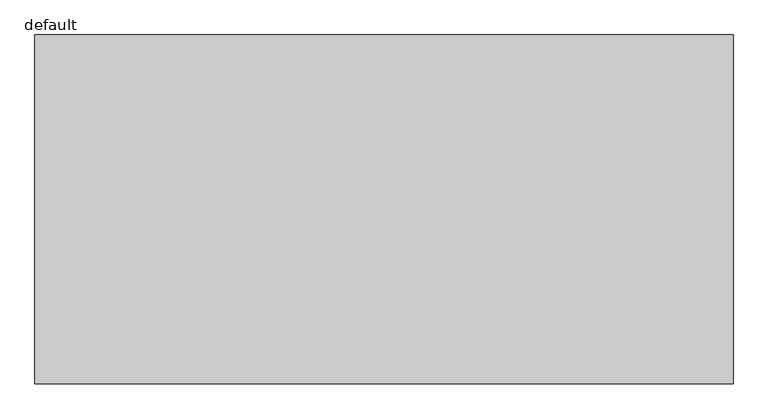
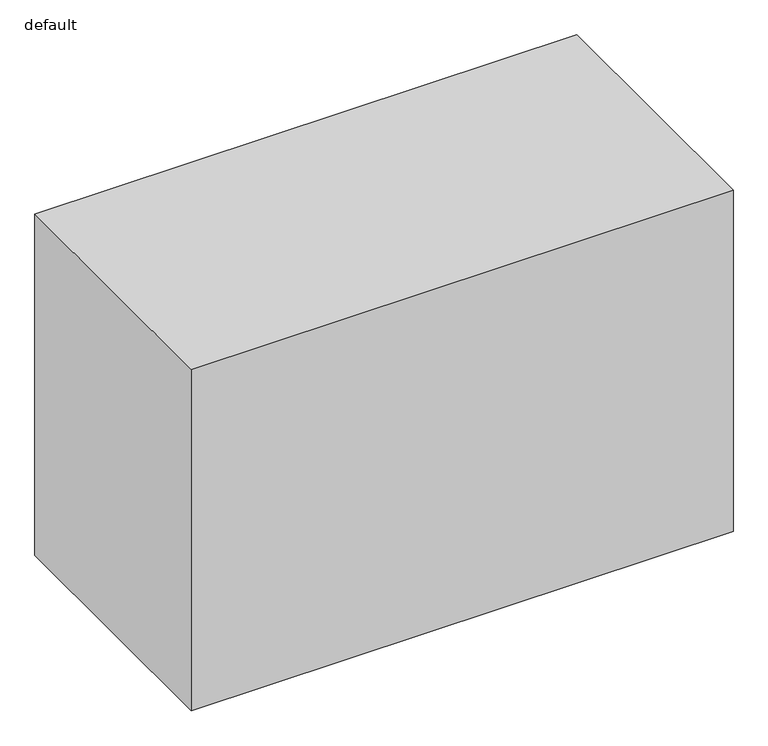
"""IFC4 building model written with IfcOpenShell, lengths in millimetres: furniture geometry, Fu_кухонный напольный модуль_LEG : default."""

import ifcopenshell
import ifcopenshell.guid

model = None  # the IFC model being written
_history = None  # IfcOwnerHistory: only IFC2X3 demands one
_inside = {}  # id of a spatial element -> (the spatial element, [elements in it])
_under = {}  # id of a project, library or spatial element -> (it, [spatial elements below it])
_declared = {}  # id of a project -> (the project, [libraries it declares])
_typed = {}  # id of a type object -> (the type object, [elements of that type])
_made_of = {}  # id of a material, layer set ... -> (it, [elements and type objects made of it])


def new_model(schema):
    """Start an empty IFC model of exactly this schema.

    Asked for "IFC4X3", IfcOpenShell would pick the latest addendum, in which some entities
    have other attributes; the version numbers below select the first issue.
    IFC2X3 requires an IfcOwnerHistory on every rooted entity: one is made here for all.
    """
    global model, _history
    if schema == "IFC4X3":
        model = ifcopenshell.file(schema_version=(4, 3, 0, 0))
    else:
        model = ifcopenshell.file(schema=schema)
    _inside.clear()
    _under.clear()
    _declared.clear()
    _typed.clear()
    _made_of.clear()
    _history = None
    if model.schema == "IFC2X3":
        org = make("IfcOrganization", Name="unknown")
        user = make(
            "IfcPersonAndOrganization",
            ThePerson=make("IfcPerson", FamilyName="unknown"),
            TheOrganization=org,
        )
        app = make(
            "IfcApplication",
            ApplicationDeveloper=org,
            Version="unknown",
            ApplicationFullName="unknown",
            ApplicationIdentifier="unknown",
        )
        _history = make(
            "IfcOwnerHistory",
            OwningUser=user,
            OwningApplication=app,
            ChangeAction="ADDED",
            CreationDate=0,
        )
    return model


def make(cls, **values):
    """One entity of the class cls with the attributes given. An attribute that is None is left unset."""
    return model.create_entity(
        cls, **{name: value for name, value in values.items() if value is not None}
    )


def rooted(cls, **values):
    """An entity with a GlobalId (a new one), such as an element, a storey or a relation."""
    return make(cls, GlobalId=ifcopenshell.guid.new(), OwnerHistory=_history, **values)


def si_unit(unit_type, name, prefix=None):
    """IfcSIUnit, for example si_unit("LENGTHUNIT", "METRE", prefix="MILLI")."""
    return make("IfcSIUnit", UnitType=unit_type, Prefix=prefix, Name=name)


def assignment(units):
    """IfcUnitAssignment: the units of a project."""
    return None if units is None else make("IfcUnitAssignment", Units=units)


def point(xyz):
    """IfcCartesianPoint."""
    return None if xyz is None else make("IfcCartesianPoint", Coordinates=xyz)


def direction(xyz):
    """IfcDirection."""
    return None if xyz is None else make("IfcDirection", DirectionRatios=xyz)


def frame(location, z_axis=None, x_axis=None):
    """IfcAxis2Placement3D, a coordinate frame: its origin and axes. An axis left out is left unset."""
    return make(
        "IfcAxis2Placement3D",
        Location=point(location),
        Axis=direction(z_axis),
        RefDirection=direction(x_axis),
    )


def origin():
    """The frame at (0, 0, 0) with its axes left unset."""
    return frame((0.0, 0.0, 0.0))


def origin_with_axes():
    """The frame at (0, 0, 0) with the z axis (0, 0, 1) and the x axis (1, 0, 0) written out."""
    return frame((0.0, 0.0, 0.0), z_axis=(0.0, 0.0, 1.0), x_axis=(1.0, 0.0, 0.0))


def place(relative_to, where):
    """IfcLocalPlacement: puts the frame where relative to a parent placement (None: the world)."""
    return make(
        "IfcLocalPlacement", PlacementRelTo=relative_to, RelativePlacement=where
    )


def context(
    kind, dimensions, precision=None, world=None, true_north=None, identifier=None
):
    """IfcGeometricRepresentationContext, for example the 3D "Model" context."""
    return make(
        "IfcGeometricRepresentationContext",
        ContextIdentifier=identifier,
        ContextType=kind,
        CoordinateSpaceDimension=dimensions,
        Precision=precision,
        WorldCoordinateSystem=world,
        TrueNorth=true_north,
    )


def project(units=None, contexts=None):
    """IfcProject with its units and contexts."""
    return rooted(
        "IfcProject",
        Name="project",
        RepresentationContexts=contexts,
        UnitsInContext=assignment(units),
    )


def spatial(cls, under=None, at=None, **own):
    """A site, building, storey or space (cls), placed at a placement, below another one or the project."""
    s = rooted(cls, ObjectPlacement=at, **own)
    if under is not None:
        _under.setdefault(under.id(), (under, []))[1].append(s)
    return s


def polyline(points):
    """IfcPolyline through the points."""
    return make("IfcPolyline", Points=[point(p) for p in points])


def outline(outer, holes=None, kind="AREA"):
    """IfcArbitraryClosedProfileDef: a profile drawn as a closed curve; with holes, ...WithVoids."""
    if holes is None:
        return make("IfcArbitraryClosedProfileDef", ProfileType=kind, OuterCurve=outer)
    return make(
        "IfcArbitraryProfileDefWithVoids",
        ProfileType=kind,
        OuterCurve=outer,
        InnerCurves=holes,
    )


def extrude(swept, where, along, depth):
    """IfcExtrudedAreaSolid: the profile swept, set in the frame where, extruded along a direction by depth."""
    return make(
        "IfcExtrudedAreaSolid",
        SweptArea=swept,
        Position=where,
        ExtrudedDirection=direction(along),
        Depth=depth,
    )


def shape(context_of_items, identifier, shape_type, items):
    """IfcShapeRepresentation: the items that make up one representation, for example the "Body"."""
    return make(
        "IfcShapeRepresentation",
        ContextOfItems=context_of_items,
        RepresentationIdentifier=identifier,
        RepresentationType=shape_type,
        Items=items,
    )


def source(mapping_origin, context_of_items, identifier, shape_type, items):
    """IfcRepresentationMap: a shape defined once, which mapped items show again and again."""
    return make(
        "IfcRepresentationMap",
        MappingOrigin=mapping_origin,
        MappedRepresentation=shape(context_of_items, identifier, shape_type, items),
    )


def transform(
    local_origin,
    x_axis=None,
    y_axis=None,
    z_axis=None,
    scale=None,
    scale2=None,
    scale3=None,
    uniform=True,
):
    """IfcCartesianTransformationOperator3D, or its non-uniform kind. x_axis, y_axis, z_axis: its Axis1, 2, 3."""
    if uniform:
        return make(
            "IfcCartesianTransformationOperator3D",
            Axis1=direction(x_axis),
            Axis2=direction(y_axis),
            LocalOrigin=point(local_origin),
            Scale=scale,
            Axis3=direction(z_axis),
        )
    return make(
        "IfcCartesianTransformationOperator3DnonUniform",
        Axis1=direction(x_axis),
        Axis2=direction(y_axis),
        LocalOrigin=point(local_origin),
        Scale=scale,
        Axis3=direction(z_axis),
        Scale2=scale2,
        Scale3=scale3,
    )


def mapped(mapping_source, mapping_target):
    """IfcMappedItem: shows the shape of a source again, moved by a transform."""
    return make(
        "IfcMappedItem", MappingSource=mapping_source, MappingTarget=mapping_target
    )


def made_of(thing, what):
    """Note that an element or type object is made of a material, layer set ...; save() writes the relation."""
    if what is not None:
        _made_of.setdefault(what.id(), (what, []))[1].append(thing)
    return thing


def element(
    cls,
    number,
    at=None,
    inside=None,
    cuts=None,
    type_object=None,
    material=None,
    context=None,
    identifier="Body",
    shape_type=None,
    held_by="IfcProductDefinitionShape",
    body=None,
    shapes=None,
    **own,
):
    """One element of the class cls, such as IfcWall. Its Tag is "e" and its number.

    at: its placement. inside: the storey or other place that contains it. cuts: it is an
    opening in that element (IfcRelVoidsElement). A single representation is given by context,
    identifier, shape_type and body (its items); several are given by shapes. held_by: the class
    of the entity that holds the representations. save() writes the other relations.
    """
    e = rooted(cls, Tag="e%d" % number, ObjectPlacement=at, **own)
    if body is not None:
        shapes = [shape(context, identifier, shape_type, body)]
    if shapes is not None:
        e.Representation = make(held_by, Representations=shapes)
    if inside is not None:
        _inside.setdefault(inside.id(), (inside, []))[1].append(e)
    if cuts is not None:
        rooted(
            "IfcRelVoidsElement", RelatingBuildingElement=cuts, RelatedOpeningElement=e
        )
    if type_object is not None:
        _typed.setdefault(type_object.id(), (type_object, []))[1].append(e)
    return made_of(e, material)


def aggregate(whole, parts):
    """IfcRelAggregates: a whole, such as a stair, and the parts it consists of."""
    return rooted("IfcRelAggregates", RelatingObject=whole, RelatedObjects=parts)


def save(model, path):
    """Write the relations noted so far, then the file.

    IfcRelAggregates (storeys below a building ...), IfcRelContainedInSpatialStructure (elements
    in a storey), IfcRelDefinesByType, IfcRelAssociatesMaterial and IfcRelDeclares: one each for
    every whole, place, type object, material and project.
    """
    for whole, parts in _under.values():
        aggregate(whole, parts)
    for where, things in _inside.values():
        rooted(
            "IfcRelContainedInSpatialStructure",
            RelatedElements=things,
            RelatingStructure=where,
        )
    for kind, things in _typed.values():
        rooted("IfcRelDefinesByType", RelatedObjects=things, RelatingType=kind)
    for what, things in _made_of.values():
        rooted("IfcRelAssociatesMaterial", RelatedObjects=things, RelatingMaterial=what)
    for by, libraries in _declared.values():
        rooted("IfcRelDeclares", RelatingContext=by, RelatedDefinitions=libraries)
    model.write(path)


def default_1c22f4a7(model_context):
    return source(origin(), model_context, "Body", "SweptSolid", [
        extrude(outline(polyline([(1200.0, 0.0), (0.0, 0.0), (0.0, 600.0), (1200.0, 600.0), (1200.0, 0.0)])), origin_with_axes(), (0.0, 0.0, 1.0), 800.0),
    ])


if __name__ == "__main__":
    model = new_model("IFC4")
    model_context = context("Model", 3, world=origin())
    ifc_project = project(units=[si_unit("LENGTHUNIT", "METRE", prefix="MILLI")], contexts=[model_context])
    site = spatial("IfcSite", under=ifc_project)
    building = spatial("IfcBuilding", under=site)
    placement = place(None, origin())
    default_shape = default_1c22f4a7(model_context)
    element("IfcFurniture", 1, ObjectType="Fu_кухонный напольный модуль_LEG : default", at=placement, inside=building, context=model_context, shape_type="MappedRepresentation", body=[
        mapped(default_shape, transform((0.0, 0.0, 0.0), x_axis=(1.0, 0.0, 0.0), y_axis=(0.0, 1.0, 0.0), z_axis=(0.0, 0.0, 1.0))),
    ])
    save(model, "model.ifc")
